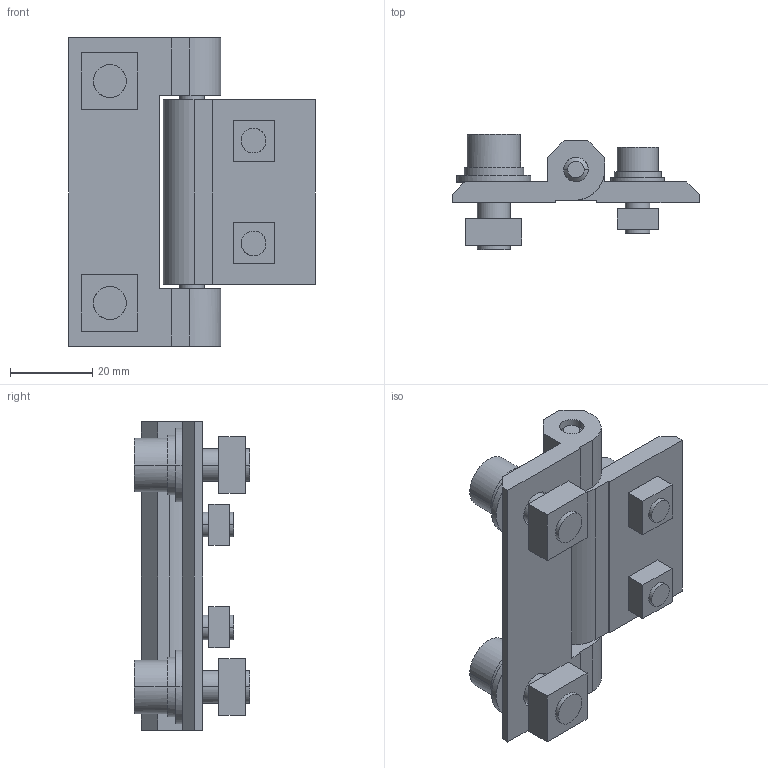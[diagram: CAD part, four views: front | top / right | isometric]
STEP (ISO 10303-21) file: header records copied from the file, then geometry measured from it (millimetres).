
FILE_DESCRIPTION(/* description */ (''),/* implementation_level */ '2;1');
FILE_NAME(/* name */ 'AHS-68',/* time_stamp */ '2012-02-02T14:18:37+09:00',/* author */ (''),/* organization */ (''),/* preprocessor_version */ 'ST-DEVELOPER v10',/* originating_system */ '',/* authorisation */ '');
FILE_SCHEMA (('CONFIG_CONTROL_DESIGN'));
Length unit declared in the file: millimetre
Products named in the file (1): 1
Bounding box: 60 x 28 x 75 mm (x, y, z)
Volume: 34807.7 mm3; surface area: 20481 mm2
Topology: 11 solids, 11 shells, 143 faces, 325 edges, 216 vertices
Faces by surface type: plane 82, bspline 61
Entity records: 4147 total; most frequent: CARTESIAN_POINT 1896, ORIENTED_EDGE 650, EDGE_CURVE 325, VERTEX_POINT 216, B_SPLINE_CURVE_WITH_KNOTS 205, EDGE_LOOP 177, ADVANCED_FACE 143, FACE_OUTER_BOUND 143
